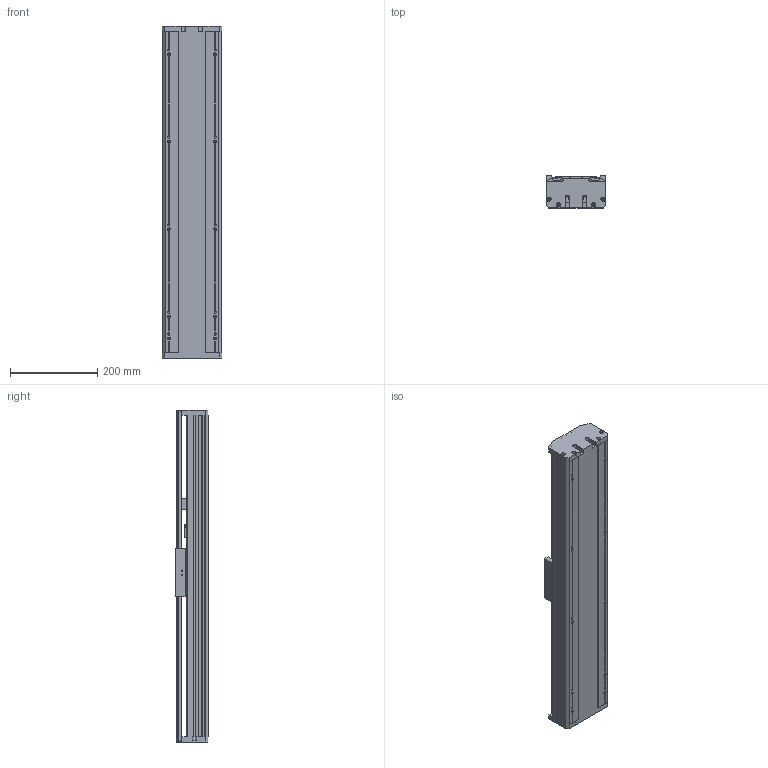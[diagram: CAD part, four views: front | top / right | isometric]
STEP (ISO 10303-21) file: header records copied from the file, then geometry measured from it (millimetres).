
FILE_DESCRIPTION(/* description */ (''),/* implementation_level */ '2;1');
FILE_NAME(/* name */ 'TKA136-FI-300_asm1.stp',/* time_stamp */ '2016-05-07T10:18:51+08:00',/* author */ (''),/* organization */ (''),/* preprocessor_version */ 'ST-DEVELOPER v15',/* originating_system */ 'SIEMENS PLM Software NX 8.5',/* authorisation */ '');
FILE_SCHEMA (('AUTOMOTIVE_DESIGN { 1 0 10303 214 3 1 1 1 }'));
Length unit declared in the file: millimetre
Products named in the file (3): 100-02; 100-01; TKA136-FI-300_asm1
Assembly tree (2 placements, depth 2):
  TKA136-FI-300_asm1
    100-01
    100-02
Bounding box: 136 x 75 x 759 mm (x, y, z)
Volume: 2519969.9 mm3; surface area: 926582.5 mm2
Topology: 2 solids, 12 shells, 937 faces, 2672 edges, 1751 vertices
Faces by surface type: cylinder 453, plane 434, cone 50
Full cylindrical faces by diameter (mm): 2.5 x4, 3.3 x8, 4.2 x8, 4.5 x20, 5 x8, 5.5 x14, 8 x20, 10 x9, 10.5 x4, 11.6 x1, 12 x8, 15 x3, 16 x5, 24 x3, 26 x1, 28 x1, 46 x1
Entity records: 32363 total; most frequent: CARTESIAN_POINT 8345, DIRECTION 4928, ORIENTED_EDGE 4900, EDGE_CURVE 2450, AXIS2_PLACEMENT_3D 1828, VERTEX_POINT 1703, LINE 1272, VECTOR 1272
